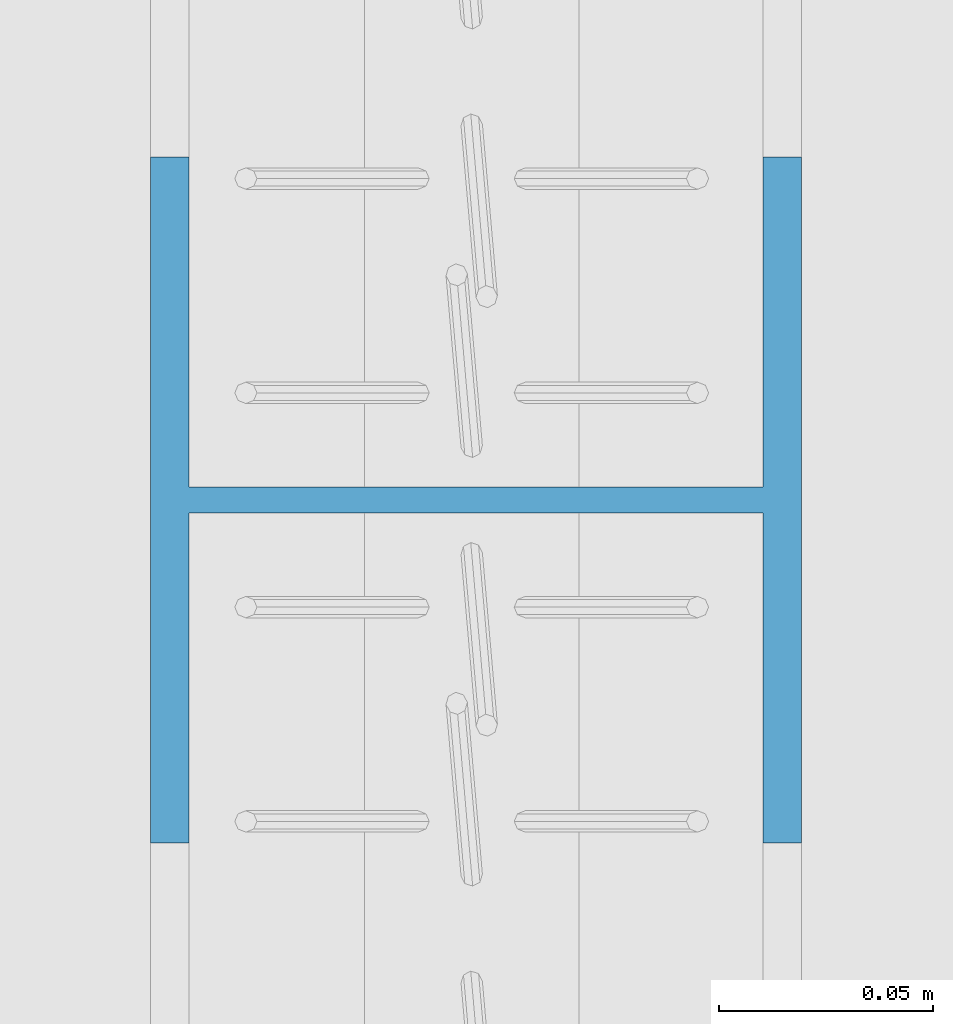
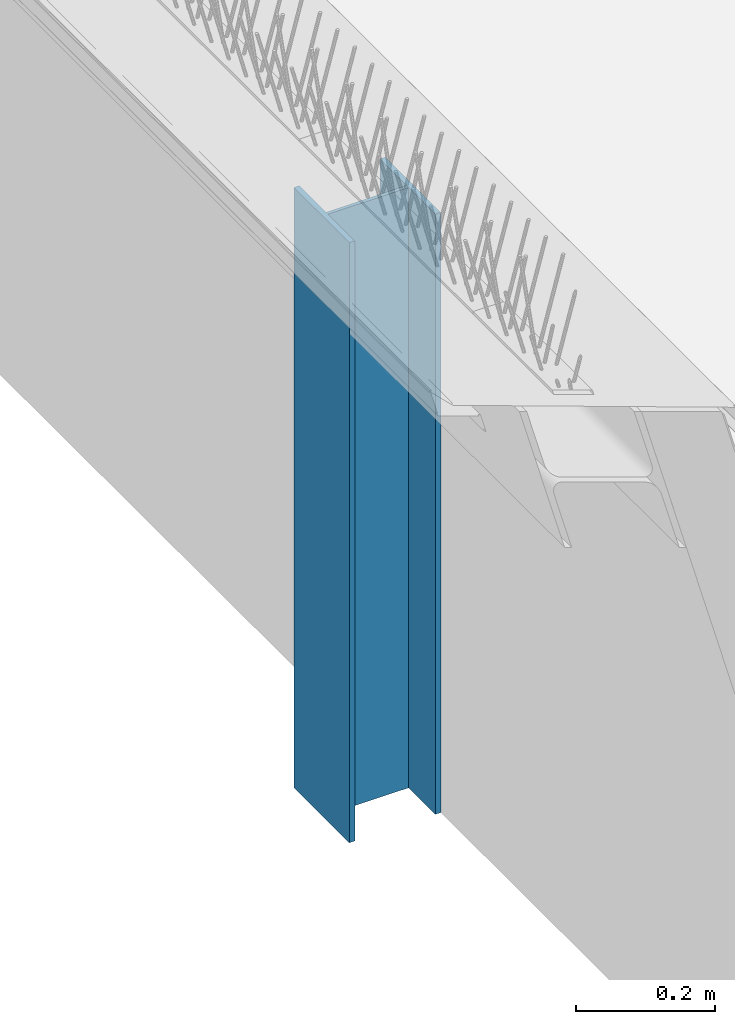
# One storey, part 4 of 81: 1 column.
"""IFC2X3 building model written with IfcOpenShell, lengths in millimetres."""

from ifc_helpers import new_model, entity, si_unit, converted_unit, derived_unit, money_unit, direction, frame, origin_with_axes, place, context, subcontext, project, spatial, faceted_brep, material, type_object, element, save


model = new_model("IFC2X3")

# Units and contexts
model_context = context("Model", 3, precision=0.01, world=origin_with_axes(), true_north=direction((0.0, 1.0)))
body_context = subcontext(model_context, "Body", "Model", "MODEL_VIEW")
ifc_project = project(units=[si_unit("LENGTHUNIT", "METRE", prefix="MILLI"), si_unit("AREAUNIT", "SQUARE_METRE"), si_unit("VOLUMEUNIT", "CUBIC_METRE"), converted_unit("PLANEANGLEUNIT", "DEGREE", entity("IfcPlaneAngleMeasure", 0.0174532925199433), si_unit("PLANEANGLEUNIT", "RADIAN"), dimensions=[0, 0, 0, 0, 0, 0, 0]), money_unit("EUR"), converted_unit("TIMEUNIT", "Year", entity("IfcTimeMeasure", 31557600.0), si_unit("TIMEUNIT", "SECOND"), dimensions=[0, 0, 1, 0, 0, 0, 0]), si_unit("MASSUNIT", "GRAM", prefix="KILO"), si_unit("THERMODYNAMICTEMPERATUREUNIT", "DEGREE_CELSIUS"), si_unit("LUMINOUSINTENSITYUNIT", "LUMEN"), si_unit("ENERGYUNIT", "JOULE", prefix="MEGA"), derived_unit("THERMALCONDUCTANCEUNIT", [(si_unit("POWERUNIT", "WATT"), 1), (si_unit("LENGTHUNIT", "METRE"), -1), (si_unit("THERMODYNAMICTEMPERATUREUNIT", "KELVIN"), -1)]), derived_unit("SPECIFICHEATCAPACITYUNIT", [(si_unit("ENERGYUNIT", "JOULE"), 1), (si_unit("MASSUNIT", "GRAM", prefix="KILO"), -1), (si_unit("THERMODYNAMICTEMPERATUREUNIT", "KELVIN"), -1)]), derived_unit("MASSDENSITYUNIT", [(si_unit("MASSUNIT", "GRAM", prefix="KILO"), 1), (si_unit("VOLUMEUNIT", "CUBIC_METRE"), -1)])], contexts=[model_context])

# Site, building, storey
site_placement = place(None, origin_with_axes())
site = spatial("IfcSite", under=ifc_project, at=site_placement, Name="Site", CompositionType="ELEMENT")
building_placement = place(site_placement, origin_with_axes())
building = spatial("IfcBuilding", under=site, at=building_placement, Name="Naam gebouw", CompositionType="ELEMENT")
storey_placement = place(building_placement, frame((0.0, 0.0, 15320.0), z_axis=(0.0, 0.0, 1.0), x_axis=(1.0, 0.0, 0.0)))
storey = spatial("IfcBuildingStorey", under=building, at=storey_placement, Name="01 dak", CompositionType="ELEMENT", Elevation=15320.0)

# Column
ifc_material = material(Name="Metaal - Staal C")
column_type = type_object("IfcColumnType", Name="HEA160 160 x 152", PredefinedType="COLUMN")
column_placement = place(storey_placement, frame((25376.0, 51600.00000000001, -400.0393597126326), z_axis=(0.0, 0.0, 1.0), x_axis=(0.0, 1.0, 0.0)))
element("IfcColumn", 1, at=column_placement, inside=storey, type_object=column_type, material=ifc_material, Name="HEA160", ObjectType="COLUMN", context=body_context, shape_type="Brep", body=[
    faceted_brep([(-79.9999999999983, 76.00000000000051, 1055.0), (-79.9999999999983, 76.00000000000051, 0.0), (-79.9999999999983, 67.00000000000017, 0.0), (-79.9999999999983, 67.00000000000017, 1055.0), (79.9999999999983, 76.00000000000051, 1055.0), (79.9999999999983, 76.00000000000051, 0.0), (79.9999999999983, 67.00000000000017, 0.0), (3.000000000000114, 67.00000000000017, 0.0), (3.000000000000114, -67.00000000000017, 0.0), (79.9999999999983, -67.00000000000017, 0.0), (79.9999999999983, -76.00000000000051, 0.0), (-79.9999999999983, -76.00000000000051, 0.0), (-79.9999999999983, -67.00000000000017, 0.0), (-3.000000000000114, -67.00000000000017, 0.0), (-3.000000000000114, 67.00000000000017, 0.0), (-3.000000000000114, 67.00000000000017, 1055.0), (-3.000000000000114, -67.00000000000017, 1055.0), (-79.9999999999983, -67.00000000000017, 1055.0), (-79.9999999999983, -76.00000000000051, 1055.0), (79.9999999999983, -76.00000000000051, 1055.0), (79.9999999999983, -67.00000000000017, 1055.0), (3.000000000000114, -67.00000000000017, 1055.0), (3.000000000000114, 67.00000000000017, 1055.0), (79.9999999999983, 67.00000000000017, 1055.0)], [[[0, 1, 2, 3]], [[4, 5, 1, 0]], [[2, 1, 5, 6, 7, 8, 9, 10, 11, 12, 13, 14]], [[3, 2, 14, 15]], [[4, 0, 3, 15, 16, 17, 18, 19, 20, 21, 22, 23]], [[23, 6, 5, 4]], [[22, 7, 6, 23]], [[21, 8, 7, 22]], [[20, 9, 8, 21]], [[19, 10, 9, 20]], [[18, 11, 10, 19]], [[17, 12, 11, 18]], [[16, 13, 12, 17]], [[15, 14, 13, 16]]]),
])

save(model, "model.ifc")
